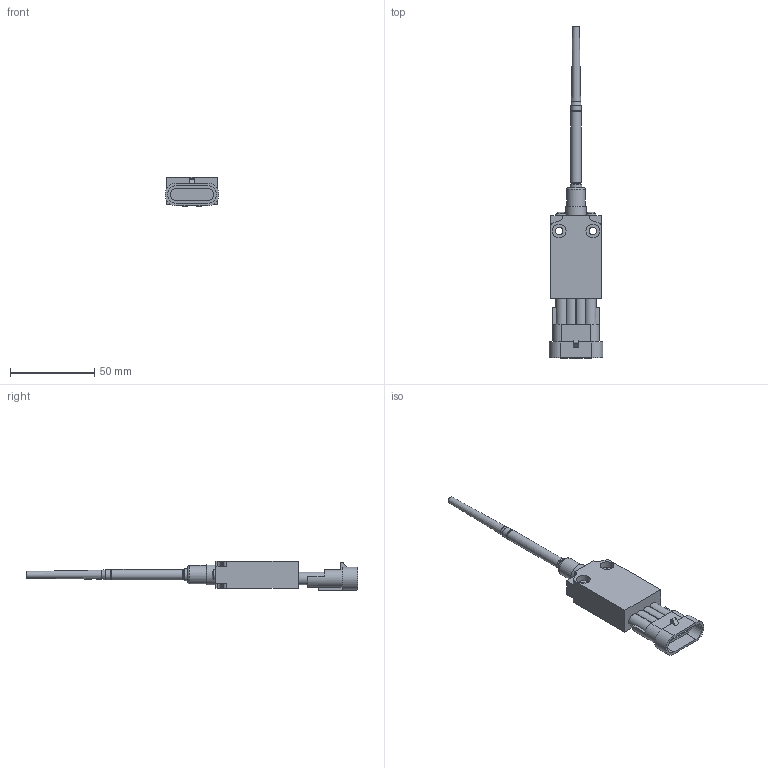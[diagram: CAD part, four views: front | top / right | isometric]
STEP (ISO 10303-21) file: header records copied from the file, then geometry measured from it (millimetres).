
FILE_DESCRIPTION(/* description */ (''),/* implementation_level */ '2;1');
FILE_NAME(/* name */ 'C:\Users\servizio.tecnico\Desktop\CADENAS\3D\EP1_STP\STP_EP1_G92A.stp',/* time_stamp */ '2017-09-04T10:53:08+02:00',/* author */ ('servizio.tecnico'),/* organization */ (''),/* preprocessor_version */ 'ST-DEVELOPER v16.1',/* originating_system */ 'Autodesk Inventor 2016',/* authorisation */ '');
FILE_SCHEMA (('AUTOMOTIVE_DESIGN { 1 0 10303 214 3 1 1 }'));
Length unit declared in the file: millimetre
Products named in the file (3): Product; EP1G92-A; BASE ASSI 
Assembly tree (2 placements, depth 3):
  BASE ASSI 
    EP1G92-A
      Product
Bounding box: 32 x 197.4 x 17.5 mm (x, y, z)
Volume: 32475.2 mm3; surface area: 13333 mm2
Topology: 3 solids, 3 shells, 156 faces, 401 edges, 261 vertices
Faces by surface type: plane 89, cylinder 49, cone 10, torus 6, sphere 2
Full cylindrical faces by diameter (mm): 4.4 x2, 5.9 x1, 6.2 x1, 6.25 x1, 7 x1, 8.2 x4, 11 x1, 12 x1
Entity records: 4691 total; most frequent: DIRECTION 806, CARTESIAN_POINT 789, ORIENTED_EDGE 726, EDGE_CURVE 363, AXIS2_PLACEMENT_3D 290, VERTEX_POINT 249, LINE 226, VECTOR 226
